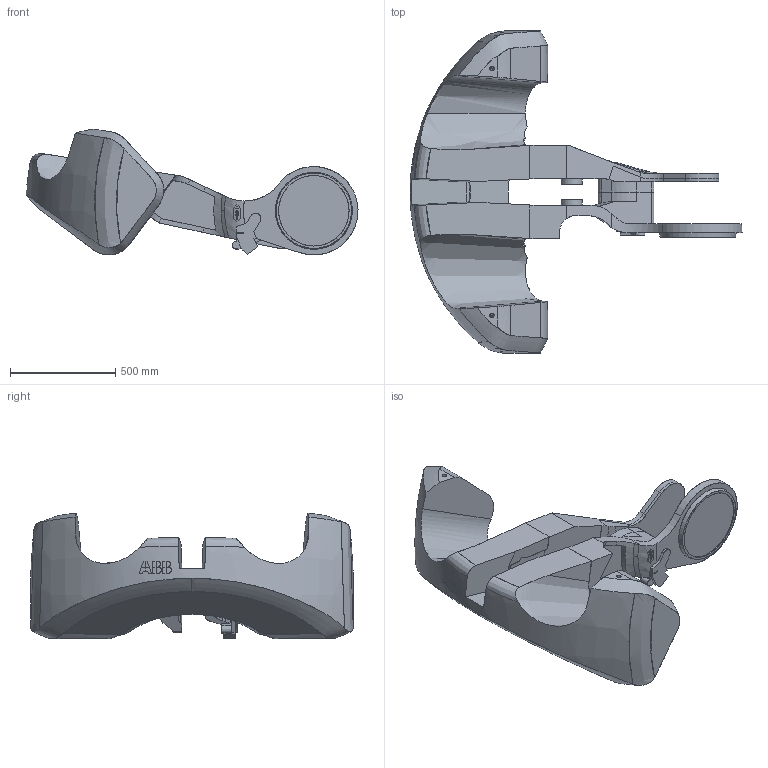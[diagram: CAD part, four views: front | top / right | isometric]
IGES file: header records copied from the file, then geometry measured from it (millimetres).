
Start section: SolidWorks IGES file using analytic representation for surfaces
Global section: file name: B:\DM\Robotics\SEROP_PROJ\Product Development\DevelopmentProjects\HD\3_Design PRMD\4_Struktur SAP o CAD\Lättmodeller\IRB8700-MH3_800-350\IRB8700-MH3_800-350_IRC5_IGES_j\IRB8700-MH3_800-350_IRC5_rev00_LINKARM_CAD.IGS; native system: SolidWorks 2014; preprocessor: SolidWorks 2014; author: sepehak; date: 150604.101903; units: millimetre
Bounding box: 1577.36 x 1532.83 x 598.07 mm (x, y, z)
Surface area: 4850045 mm2 (no closed solid volume)
Topology: 0 solids, 0 shells, 385 faces, 6411 edges, 6407 vertices
Faces by surface type: bspline 302, revolution 83
